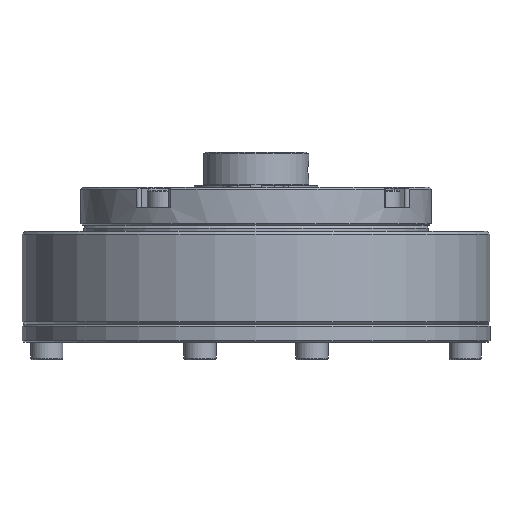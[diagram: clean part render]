
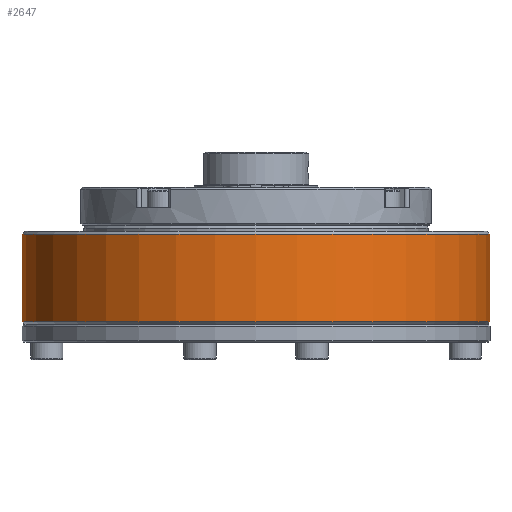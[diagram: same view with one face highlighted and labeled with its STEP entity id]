
A CAD part, front view. The second image highlights one B-rep face of the part: STEP entity #2647.
In plain terms, the highlighted cylindrical face has radius 40 mm (diameter 80 mm), a full revolution.
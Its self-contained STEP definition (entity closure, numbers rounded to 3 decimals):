
#2415=CYLINDRICAL_SURFACE('',#12199,40.);
#2647=ADVANCED_FACE('',(#3690,#3691),#2415,.T.);
#3690=FACE_BOUND('',#4680,.T.);
#3691=FACE_BOUND('',#4681,.T.);
#4680=EDGE_LOOP('',(#5954));
#4681=EDGE_LOOP('',(#5955));
#5954=ORIENTED_EDGE('',*,*,#9929,.F.);
#5955=ORIENTED_EDGE('',*,*,#9928,.T.);
#8789=VERTEX_POINT('',#17542);
#8790=VERTEX_POINT('',#17545);
#9928=EDGE_CURVE('',#8789,#8789,#11355,.T.);
#9929=EDGE_CURVE('',#8790,#8790,#11356,.T.);
#11355=CIRCLE('',#12196,40.);
#11356=CIRCLE('',#12198,40.);
#12196=AXIS2_PLACEMENT_3D('',#17541,#13874,#13875);
#12198=AXIS2_PLACEMENT_3D('',#17544,#13878,#13879);
#12199=AXIS2_PLACEMENT_3D('',#17546,#13880,#13881);
#13874=DIRECTION('',(0.,0.,-1.));
#13875=DIRECTION('',(-1.,0.,0.));
#13878=DIRECTION('',(0.,0.,-1.));
#13879=DIRECTION('',(-1.,0.,0.));
#13880=DIRECTION('',(0.,0.,-1.));
#13881=DIRECTION('',(-1.,0.,0.));
#17541=CARTESIAN_POINT('',(0.,0.,15.5));
#17542=CARTESIAN_POINT('',(-40.,0.,15.5));
#17544=CARTESIAN_POINT('',(0.,0.,0.5));
#17545=CARTESIAN_POINT('',(-40.,0.,0.5));
#17546=CARTESIAN_POINT('',(0.,0.,0.));
